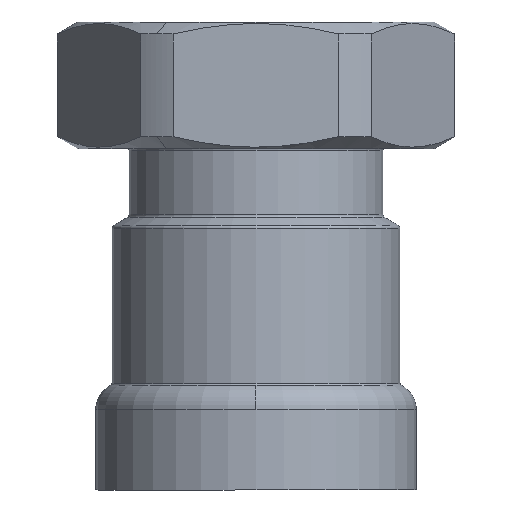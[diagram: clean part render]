
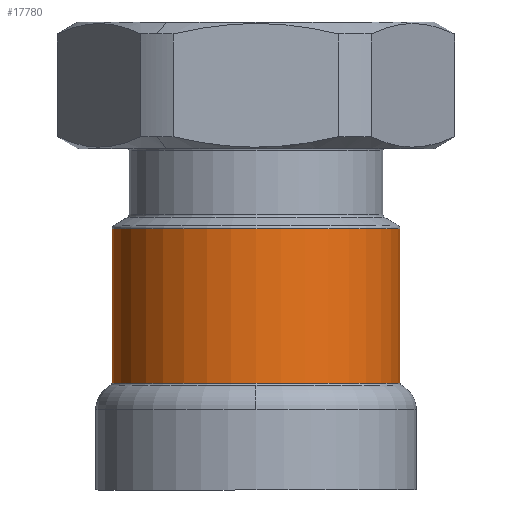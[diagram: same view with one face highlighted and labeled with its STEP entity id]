
A CAD part, front view. The second image highlights one B-rep face of the part: STEP entity #17780.
In plain terms, the highlighted cylindrical face has radius 27.85 mm (diameter 55.7 mm), a partial arc.
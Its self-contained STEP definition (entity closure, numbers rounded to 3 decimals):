
#17230=CARTESIAN_POINT('',(22.183,68.111,-74.605)
);
#17240=VERTEX_POINT('',#17230);
#17330=CARTESIAN_POINT('',(77.883,68.111,-74.605)
);
#17340=VERTEX_POINT('',#17330);
#17370=CARTESIAN_POINT('',(50.033,68.111,-74.605)
);
#17380=DIRECTION('',(0.,0.,-1.));
#17390=DIRECTION('',(-1.,0.,0.));
#17400=AXIS2_PLACEMENT_3D('',#17370,#17380,#17390);
#17410=CIRCLE('',#17400,27.85);
#17420=EDGE_CURVE('',#17340,#17240,#17410,.T.);
#17470=CARTESIAN_POINT('',(50.033,68.111,-87.741)
);
#17480=DIRECTION('',(0.,0.,-1.));
#17490=DIRECTION('',(-1.,0.,0.));
#17500=AXIS2_PLACEMENT_3D('',#17470,#17480,#17490);
#17510=CYLINDRICAL_SURFACE('',#17500,27.85);
#17520=CARTESIAN_POINT('',(77.883,68.111,-87.741)
);
#17530=DIRECTION('',(0.,0.,-1.));
#17540=VECTOR('',#17530,1.);
#17550=LINE('',#17520,#17540);
#17560=CARTESIAN_POINT('',(77.883,68.111,-104.49)
);
#17570=VERTEX_POINT('',#17560);
#17580=EDGE_CURVE('',#17340,#17570,#17550,.T.);
#17590=ORIENTED_EDGE('',*,*,#17580,.F.);
#17600=CARTESIAN_POINT('',(50.033,68.111,-104.49)
);
#17610=DIRECTION('',(0.,0.,-1.));
#17620=DIRECTION('',(-1.,0.,0.));
#17630=AXIS2_PLACEMENT_3D('',#17600,#17610,#17620);
#17640=CIRCLE('',#17630,27.85);
#17650=CARTESIAN_POINT('',(22.183,68.111,-104.49)
);
#17660=VERTEX_POINT('',#17650);
#17670=EDGE_CURVE('',#17570,#17660,#17640,.T.);
#17680=ORIENTED_EDGE('',*,*,#17670,.F.);
#17690=CARTESIAN_POINT('',(22.183,68.111,-87.741)
);
#17700=DIRECTION('',(0.,0.,-1.));
#17710=VECTOR('',#17700,1.);
#17720=LINE('',#17690,#17710);
#17730=EDGE_CURVE('',#17240,#17660,#17720,.T.);
#17740=ORIENTED_EDGE('',*,*,#17730,.T.);
#17750=ORIENTED_EDGE('',*,*,#17420,.T.);
#17760=EDGE_LOOP('',(#17750,#17740,#17680,#17590));
#17770=FACE_OUTER_BOUND('',#17760,.T.);
#17780=ADVANCED_FACE('',(#17770),#17510,.T.);
